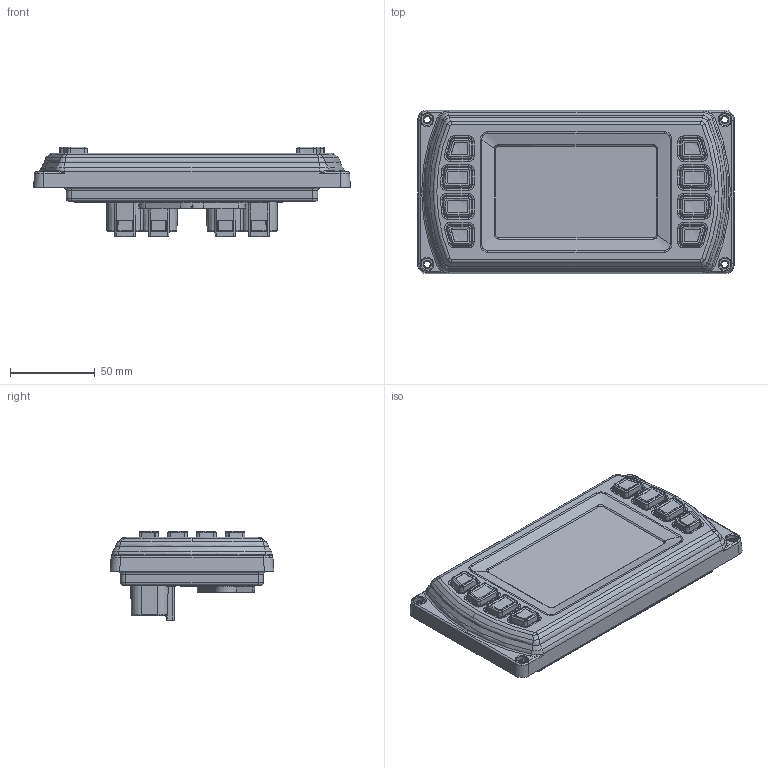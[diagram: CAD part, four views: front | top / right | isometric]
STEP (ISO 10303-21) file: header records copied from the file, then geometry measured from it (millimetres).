
FILE_DESCRIPTION (( 'STEP AP203' ), '1' );
FILE_NAME ('PV450.STEP', '2016-05-17T18:28:38', ( '' ), ( '' ), 'SwSTEP 2.0', 'SolidWorks 2015', '' );
FILE_SCHEMA (( 'CONFIG_CONTROL_DESIGN' ));
Products named in the file (1): PV450
Bounding box: 186.84 x 96.5 x 52.96 mm (x, y, z)
Volume: 434034.1 mm3; surface area: 68251.4 mm2
Topology: 4 solids, 4 shells, 8559 faces, 22755 edges, 14931 vertices
Faces by surface type: plane 5597, bspline 2268, cylinder 354, cone 292, torus 48
Entity records: 389843 total; most frequent: CARTESIAN_POINT 192440, ORIENTED_EDGE 45460, DIRECTION 31890, EDGE_CURVE 22730, LINE 16894, VECTOR 16894, VERTEX_POINT 14931, EDGE_LOOP 9327
